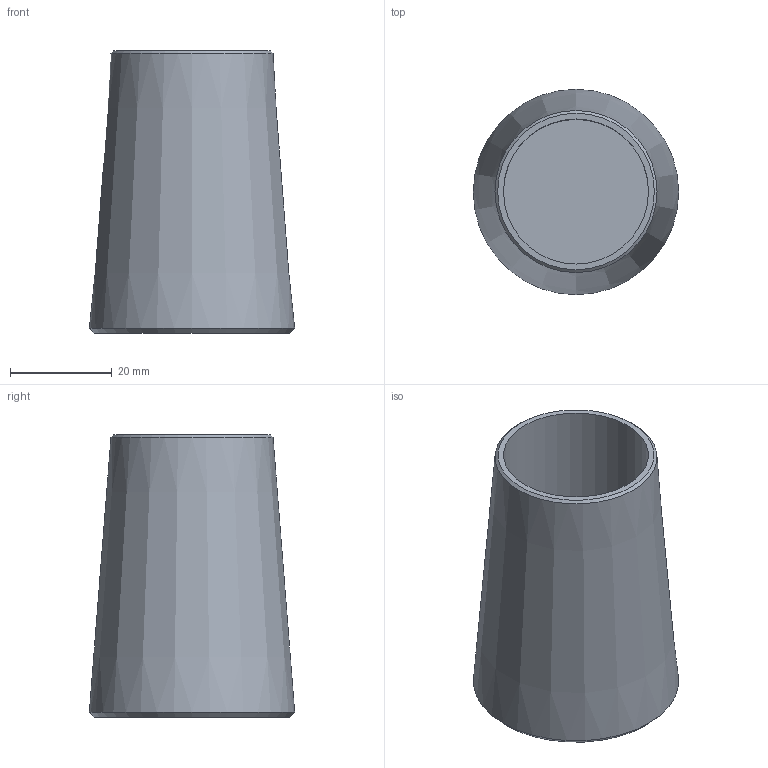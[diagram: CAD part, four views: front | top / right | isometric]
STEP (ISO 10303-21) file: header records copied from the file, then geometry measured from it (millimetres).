
FILE_DESCRIPTION(/* description */ (''),/* implementation_level */ '2;1');
FILE_NAME(/* name */ 'C:\Vault_WS\Designs\SB\01-PX\Verzinkt\ZSS\520 - Kontermutter\520-027-KMU.stp',/* time_stamp */ '2020-06-18T12:26:16+02:00',/* author */ ('schwarz'),/* organization */ (''),/* preprocessor_version */ 'ST-DEVELOPER v16.1',/* originating_system */ 'Autodesk Inventor 2016',/* authorisation */ '');
FILE_SCHEMA (('AUTOMOTIVE_DESIGN { 1 0 10303 214 3 1 1 }'));
Length unit declared in the file: millimetre
Products named in the file (1): Kontermutter 520 027 Kunde
Bounding box: 40.34 x 40.34 x 55.5 mm (x, y, z)
Volume: 30316.5 mm3; surface area: 12050.8 mm2
Topology: 1 solids, 1 shells, 7 faces, 10 edges, 6 vertices
Faces by surface type: cone 3, plane 3, cylinder 1
Full cylindrical faces by diameter (mm): 28.5 x1
Entity records: 158 total; most frequent: DIRECTION 28, CARTESIAN_POINT 20, AXIS2_PLACEMENT_3D 14, EDGE_LOOP 12, ORIENTED_EDGE 12, FACE_OUTER_BOUND 7, ADVANCED_FACE 7, CIRCLE 6
